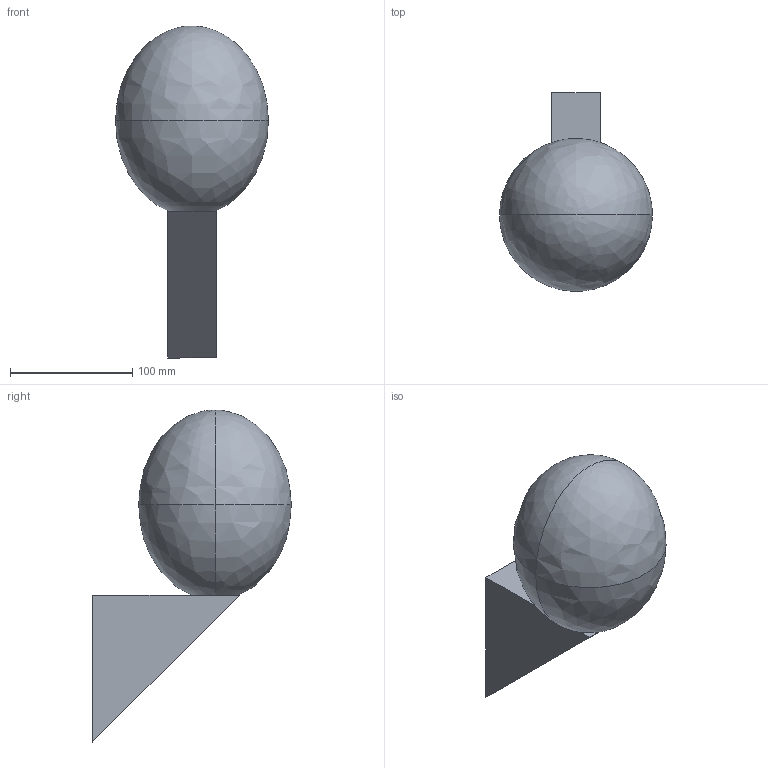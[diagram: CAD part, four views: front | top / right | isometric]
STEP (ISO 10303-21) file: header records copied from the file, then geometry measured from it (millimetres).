
FILE_DESCRIPTION(/* description */ (''),/* implementation_level */ '2;1');
FILE_NAME(/* name */ 'MA_The Philosophical Egg Collection Wall Mounted_240V_2019',/* time_stamp */ '2020-12-02T11:05:10+00:00',/* author */ (''),/* organization */ (''),/* preprocessor_version */ 'ST-DEVELOPER v15',/* originating_system */ '',/* authorisation */ '');
FILE_SCHEMA (('AUTOMOTIVE_DESIGN'));
Length unit declared in the file: millimetre
Products named in the file (1): Document
Bounding box: 125 x 162.38 x 271.46 mm (x, y, z)
Volume: 1555912 mm3; surface area: 85743.5 mm2
Topology: 1 solids, 1 shells, 9 faces, 19 edges, 11 vertices
Faces by surface type: bspline 5, plane 4
Entity records: 309 total; most frequent: CARTESIAN_POINT 171, ORIENTED_EDGE 34, EDGE_CURVE 17, VERTEX_POINT 11, EDGE_LOOP 10, ADVANCED_FACE 9, FACE_OUTER_BOUND 9, B_SPLINE_CURVE_WITH_KNOTS 9
